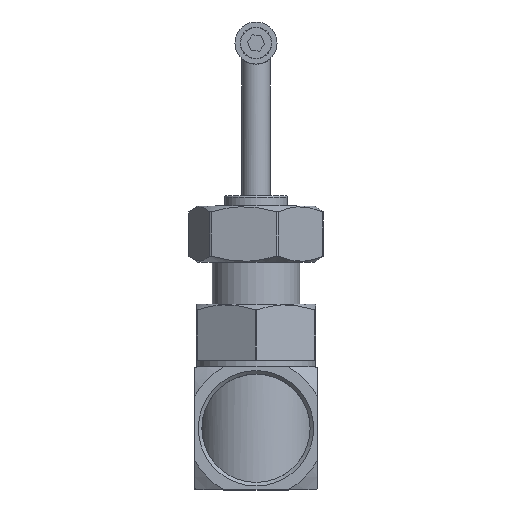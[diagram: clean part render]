
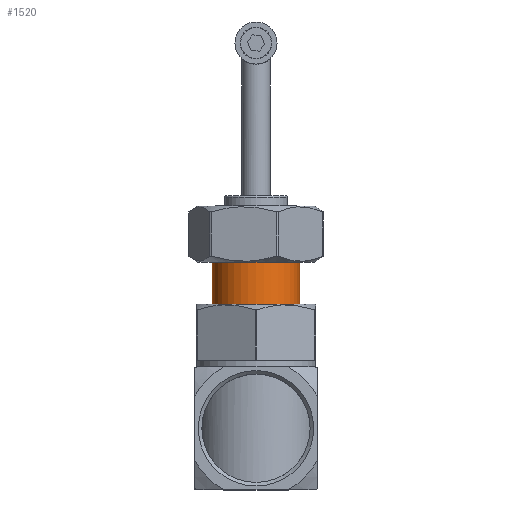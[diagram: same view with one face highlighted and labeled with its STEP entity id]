
A CAD part, top view. The second image highlights one B-rep face of the part: STEP entity #1520.
In plain terms, the highlighted cylindrical face has radius 12.5 mm (diameter 25 mm), a full revolution.
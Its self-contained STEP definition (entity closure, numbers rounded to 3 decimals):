
#1520=ADVANCED_FACE('',(#3726,#3728),#3730,.T.);
#3726=FACE_OUTER_BOUND('',#3727,.T.);
#3727=EDGE_LOOP('',(#4656));
#3728=FACE_OUTER_BOUND('',#3729,.T.);
#3729=EDGE_LOOP('',(#4657));
#3730=CYLINDRICAL_SURFACE('',#3731,12.5);
#3731=AXIS2_PLACEMENT_3D('',#3732,#3733,#3734);
#3732=CARTESIAN_POINT('',(0.,35.5,0.));
#3733=DIRECTION('',(0.,1.,0.));
#3734=DIRECTION('',(0.,0.,1.));
#4656=ORIENTED_EDGE('',*,*,#5240,.F.);
#4657=ORIENTED_EDGE('',*,*,#5241,.F.);
#5240=EDGE_CURVE('',#5979,#5979,#5980,.T.);
#5241=EDGE_CURVE('',#5981,#5981,#5982,.T.);
#5979=VERTEX_POINT('',#11596);
#5980=CIRCLE('',#11597,12.5);
#5981=VERTEX_POINT('',#11601);
#5982=CIRCLE('',#11602,12.5);
#11596=CARTESIAN_POINT('',(0.,47.5,-12.5));
#11597=AXIS2_PLACEMENT_3D('',#11598,#11599,#11600);
#11598=CARTESIAN_POINT('',(0.,47.5,0.));
#11599=DIRECTION('',(0.,1.,0.));
#11600=DIRECTION('',(0.,0.,-1.));
#11601=CARTESIAN_POINT('',(0.,35.5,-12.5));
#11602=AXIS2_PLACEMENT_3D('',#11603,#11604,#11605);
#11603=CARTESIAN_POINT('',(0.,35.5,0.));
#11604=DIRECTION('',(0.,-1.,0.));
#11605=DIRECTION('',(0.,0.,-1.));
